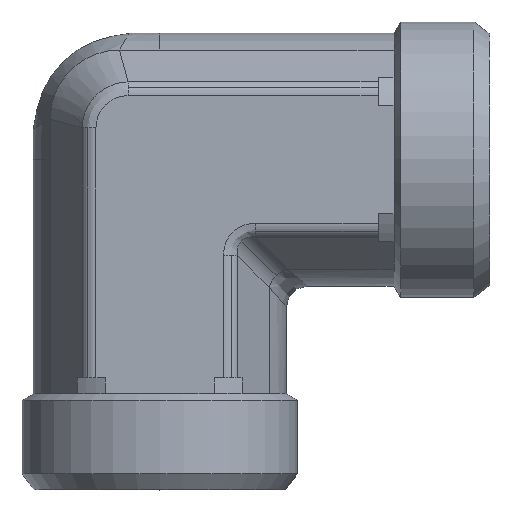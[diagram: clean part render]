
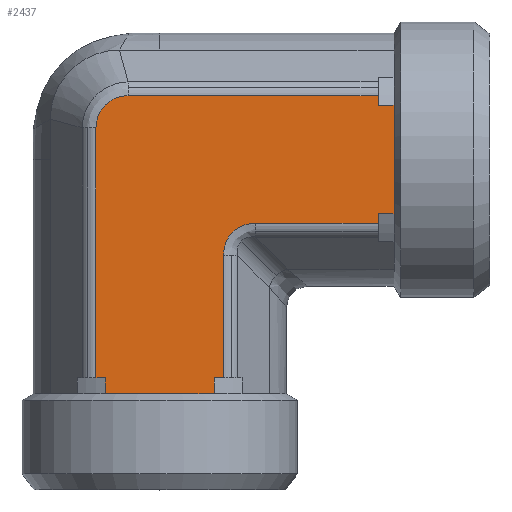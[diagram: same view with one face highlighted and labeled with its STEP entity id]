
A CAD part, top view. The second image highlights one B-rep face of the part: STEP entity #2437.
In plain terms, the highlighted planar face has unit normal (0, 0, 1) as drawn and (0, -1, 0) by its records, which use the part's own axes.
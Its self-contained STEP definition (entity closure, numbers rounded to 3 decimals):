
#361=CARTESIAN_POINT('',(4.521,-11.875,5.99));
#362=VERTEX_POINT('',#361);
#370=CARTESIAN_POINT('',(16.,-11.875,5.99));
#371=VERTEX_POINT('',#370);
#372=CARTESIAN_POINT('',(4.521,-11.875,5.99));
#373=DIRECTION('',(1.0,0.0,0.0));
#374=VECTOR('',#373,11.479);
#375=LINE('',#372,#374);
#376=EDGE_CURVE('',#362,#371,#375,.T.);
#485=CARTESIAN_POINT('',(-10.49,-11.875,-2.973));
#486=VERTEX_POINT('',#485);
#494=CARTESIAN_POINT('',(-10.49,-11.875,20.5));
#495=VERTEX_POINT('',#494);
#496=CARTESIAN_POINT('',(-10.49,-11.875,-2.973));
#497=DIRECTION('',(0.0,0.0,1.0));
#498=VECTOR('',#497,23.473);
#499=LINE('',#496,#498);
#500=EDGE_CURVE('',#486,#495,#499,.T.);
#692=CARTESIAN_POINT('',(17.5,-11.875,0.));
#693=VERTEX_POINT('',#692);
#1883=CARTESIAN_POINT('',(1.49,-11.875,20.5));
#1884=VERTEX_POINT('',#1883);
#1885=CARTESIAN_POINT('',(0.603,-11.875,20.5));
#1886=VERTEX_POINT('',#1885);
#1887=CARTESIAN_POINT('',(1.49,-11.875,20.5));
#1888=DIRECTION('',(-1.0,0.0,0.0));
#1889=VECTOR('',#1888,0.887);
#1890=LINE('',#1887,#1889);
#1891=EDGE_CURVE('',#1884,#1886,#1890,.T.);
#1942=CARTESIAN_POINT('',(-9.603,-11.875,20.5));
#1943=VERTEX_POINT('',#1942);
#1944=CARTESIAN_POINT('',(-9.603,-11.875,20.5));
#1945=DIRECTION('',(-1.0,0.0,0.0));
#1946=VECTOR('',#1945,0.887);
#1947=LINE('',#1944,#1946);
#1948=EDGE_CURVE('',#1943,#495,#1947,.T.);
#2006=CARTESIAN_POINT('',(-9.603,-11.875,22.0));
#2007=VERTEX_POINT('',#2006);
#2008=CARTESIAN_POINT('',(-9.603,-11.875,22.0));
#2009=DIRECTION('',(0.0,0.0,-1.0));
#2010=VECTOR('',#2009,1.5);
#2011=LINE('',#2008,#2010);
#2012=EDGE_CURVE('',#2007,#1943,#2011,.T.);
#2029=CARTESIAN_POINT('',(0.603,-11.875,22.0));
#2030=VERTEX_POINT('',#2029);
#2031=CARTESIAN_POINT('',(0.603,-11.875,20.5));
#2032=DIRECTION('',(0.0,0.0,1.0));
#2033=VECTOR('',#2032,1.5);
#2034=LINE('',#2031,#2033);
#2035=EDGE_CURVE('',#1886,#2030,#2034,.T.);
#2311=CARTESIAN_POINT('',(-4.5,-11.875,22.0));
#2312=VERTEX_POINT('',#2311);
#2313=CARTESIAN_POINT('',(-4.5,-11.875,22.0));
#2314=DIRECTION('',(-1.0,0.0,0.0));
#2315=VECTOR('',#2314,5.103);
#2316=LINE('',#2313,#2315);
#2317=EDGE_CURVE('',#2312,#2007,#2316,.T.);
#2335=CARTESIAN_POINT('',(-4.5,-11.875,-3.175));
#2336=DIRECTION('',(0.0,-1.0,0.0));
#2337=DIRECTION('',(0.0,0.0,-1.0));
#2338=AXIS2_PLACEMENT_3D('',#2335,#2336,#2337);
#2339=PLANE('',#2338);
#2340=ORIENTED_EDGE('',*,*,#2012,.T.);
#2341=ORIENTED_EDGE('',*,*,#1948,.T.);
#2342=ORIENTED_EDGE('',*,*,#500,.F.);
#2343=CARTESIAN_POINT('',(-7.473,-11.875,-5.99));
#2344=VERTEX_POINT('',#2343);
#2345=CARTESIAN_POINT('',(-10.49,-11.875,-2.973));
#2346=CARTESIAN_POINT('',(-10.49,-11.875,-3.17));
#2347=CARTESIAN_POINT('',(-10.471,-11.875,-3.368));
#2348=CARTESIAN_POINT('',(-10.369,-11.875,-3.873));
#2349=CARTESIAN_POINT('',(-10.259,-11.875,-4.171));
#2350=CARTESIAN_POINT('',(-9.855,-11.875,-4.889));
#2351=CARTESIAN_POINT('',(-9.496,-11.875,-5.266));
#2352=CARTESIAN_POINT('',(-8.588,-11.875,-5.831));
#2353=CARTESIAN_POINT('',(-8.031,-11.875,-5.99));
#2354=CARTESIAN_POINT('',(-7.473,-11.875,-5.99));
#2355=B_SPLINE_CURVE_WITH_KNOTS('',3,(#2345,#2346,#2347,#2348,#2349,#2350,#2351,#2352,#2353,#2354),.UNSPECIFIED.,.F.,.U.,(4,2,2,2,4),(-4.713,-4.124,-3.181,-1.673,0.0),.UNSPECIFIED.);
#2356=EDGE_CURVE('',#2344,#486,#2355,.F.);
#2357=ORIENTED_EDGE('',*,*,#2356,.F.);
#2358=CARTESIAN_POINT('',(16.,-11.875,-5.99));
#2359=VERTEX_POINT('',#2358);
#2360=CARTESIAN_POINT('',(16.,-11.875,-5.99));
#2361=DIRECTION('',(-1.0,0.0,0.0));
#2362=VECTOR('',#2361,23.473);
#2363=LINE('',#2360,#2362);
#2364=EDGE_CURVE('',#2359,#2344,#2363,.T.);
#2365=ORIENTED_EDGE('',*,*,#2364,.F.);
#2366=CARTESIAN_POINT('',(16.,-11.875,-5.103));
#2367=VERTEX_POINT('',#2366);
#2368=CARTESIAN_POINT('',(16.,-11.875,-5.99));
#2369=DIRECTION('',(0.0,0.0,1.0));
#2370=VECTOR('',#2369,0.887);
#2371=LINE('',#2368,#2370);
#2372=EDGE_CURVE('',#2359,#2367,#2371,.T.);
#2373=ORIENTED_EDGE('',*,*,#2372,.T.);
#2374=CARTESIAN_POINT('',(17.5,-11.875,-5.103));
#2375=VERTEX_POINT('',#2374);
#2376=CARTESIAN_POINT('',(16.,-11.875,-5.103));
#2377=DIRECTION('',(1.0,0.0,0.0));
#2378=VECTOR('',#2377,1.5);
#2379=LINE('',#2376,#2378);
#2380=EDGE_CURVE('',#2367,#2375,#2379,.T.);
#2381=ORIENTED_EDGE('',*,*,#2380,.T.);
#2382=CARTESIAN_POINT('',(17.5,-11.875,-5.103));
#2383=DIRECTION('',(0.0,0.0,1.0));
#2384=VECTOR('',#2383,5.103);
#2385=LINE('',#2382,#2384);
#2386=EDGE_CURVE('',#2375,#693,#2385,.T.);
#2387=ORIENTED_EDGE('',*,*,#2386,.T.);
#2388=CARTESIAN_POINT('',(17.5,-11.875,5.103));
#2389=VERTEX_POINT('',#2388);
#2390=CARTESIAN_POINT('',(17.5,-11.875,0.));
#2391=DIRECTION('',(0.0,0.0,1.0));
#2392=VECTOR('',#2391,5.103);
#2393=LINE('',#2390,#2392);
#2394=EDGE_CURVE('',#693,#2389,#2393,.T.);
#2395=ORIENTED_EDGE('',*,*,#2394,.T.);
#2396=CARTESIAN_POINT('',(16.,-11.875,5.103));
#2397=VERTEX_POINT('',#2396);
#2398=CARTESIAN_POINT('',(17.5,-11.875,5.103));
#2399=DIRECTION('',(-1.0,0.0,0.0));
#2400=VECTOR('',#2399,1.5);
#2401=LINE('',#2398,#2400);
#2402=EDGE_CURVE('',#2389,#2397,#2401,.T.);
#2403=ORIENTED_EDGE('',*,*,#2402,.T.);
#2404=CARTESIAN_POINT('',(16.,-11.875,5.103));
#2405=DIRECTION('',(0.0,0.0,1.0));
#2406=VECTOR('',#2405,0.887);
#2407=LINE('',#2404,#2406);
#2408=EDGE_CURVE('',#2397,#371,#2407,.T.);
#2409=ORIENTED_EDGE('',*,*,#2408,.T.);
#2410=ORIENTED_EDGE('',*,*,#376,.F.);
#2411=CARTESIAN_POINT('',(1.49,-11.875,9.021));
#2412=VERTEX_POINT('',#2411);
#2413=CARTESIAN_POINT('',(5.531,-11.875,10.031));
#2414=DIRECTION('',(0.,-1.,0.));
#2415=DIRECTION('',(-0.707,0.,-0.707));
#2416=AXIS2_PLACEMENT_3D('',#2413,#2414,#2415);
#2417=ELLIPSE('',#2416,4.518,3.5);
#2418=EDGE_CURVE('',#2412,#362,#2417,.T.);
#2419=ORIENTED_EDGE('',*,*,#2418,.F.);
#2420=CARTESIAN_POINT('',(1.49,-11.875,20.5));
#2421=DIRECTION('',(0.0,0.0,-1.0));
#2422=VECTOR('',#2421,11.479);
#2423=LINE('',#2420,#2422);
#2424=EDGE_CURVE('',#1884,#2412,#2423,.T.);
#2425=ORIENTED_EDGE('',*,*,#2424,.F.);
#2426=ORIENTED_EDGE('',*,*,#1891,.T.);
#2427=ORIENTED_EDGE('',*,*,#2035,.T.);
#2428=CARTESIAN_POINT('',(0.603,-11.875,22.0));
#2429=DIRECTION('',(-1.0,0.0,0.0));
#2430=VECTOR('',#2429,5.103);
#2431=LINE('',#2428,#2430);
#2432=EDGE_CURVE('',#2030,#2312,#2431,.T.);
#2433=ORIENTED_EDGE('',*,*,#2432,.T.);
#2434=ORIENTED_EDGE('',*,*,#2317,.T.);
#2435=EDGE_LOOP('',(#2340,#2341,#2342,#2357,#2365,#2373,#2381,#2387,#2395,#2403,#2409,#2410,#2419,#2425,#2426,#2427,#2433,#2434));
#2436=FACE_OUTER_BOUND('',#2435,.T.);
#2437=ADVANCED_FACE('',(#2436),#2339,.T.);
